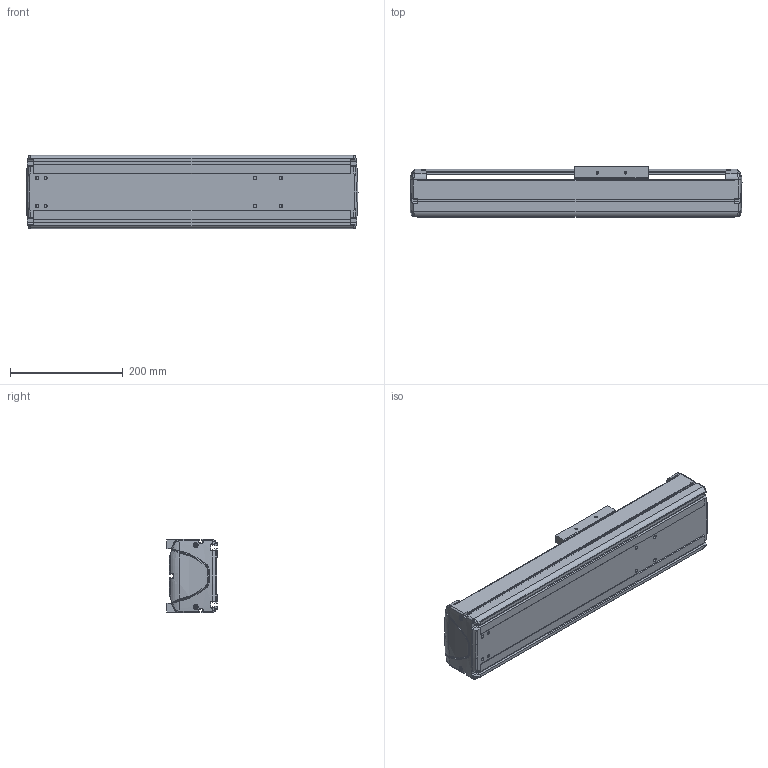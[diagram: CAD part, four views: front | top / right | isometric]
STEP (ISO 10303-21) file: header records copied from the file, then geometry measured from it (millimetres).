
FILE_DESCRIPTION((''),'2;1');
FILE_NAME('BE30E-ST-M_N-25_IGS_PRT','2017-06-17T',(' '),(''),'PRO/ENGINEER BY PARAMETRIC TECHNOLOGY CORPORATION, 2015030','PRO/ENGINEER BY PARAMETRIC TECHNOLOGY CORPORATION, 2015030','');
FILE_SCHEMA(('CONFIG_CONTROL_DESIGN'));
Length unit declared in the file: millimetre
Products named in the file (1): BE30E-ST-M_N-25_IGS_PRT
Bounding box: 590 x 89.8 x 130 mm (x, y, z)
Volume: 2086353.9 mm3; surface area: 750790.8 mm2
Topology: 2 solids, 64 shells, 1279 faces, 3397 edges, 2204 vertices
Faces by surface type: plane 593, cylinder 524, bspline 60, torus 46, cone 32, sphere 24
Entity records: 42686 total; most frequent: CARTESIAN_POINT 10886, DIRECTION 6532, ORIENTED_EDGE 6507, EDGE_CURVE 3377, AXIS2_PLACEMENT_3D 2324, VERTEX_POINT 2204, VECTOR 1884, LINE 1884
